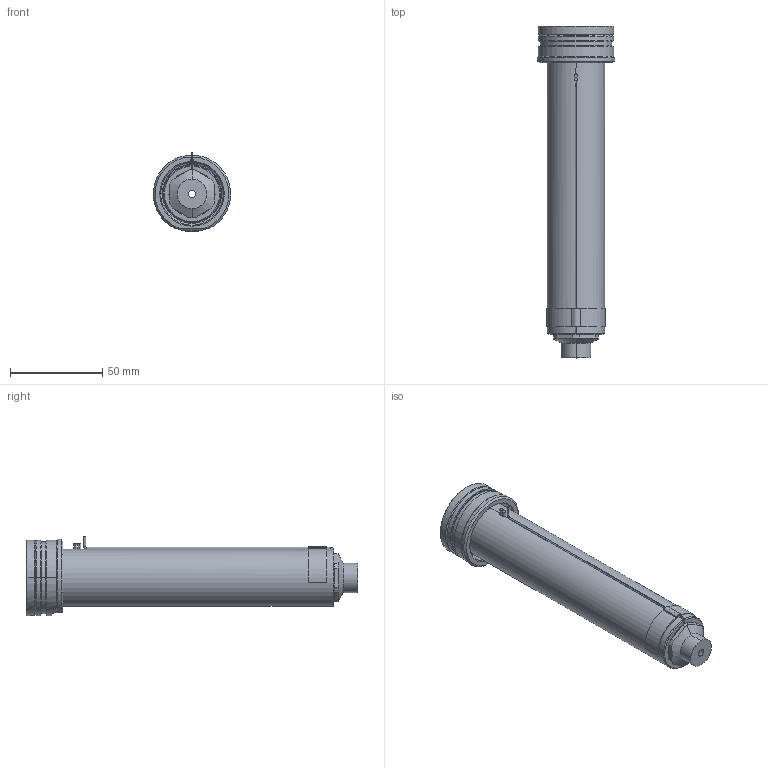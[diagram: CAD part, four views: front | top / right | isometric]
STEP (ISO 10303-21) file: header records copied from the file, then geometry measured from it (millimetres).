
FILE_DESCRIPTION((''),'2;1');
FILE_NAME('EO12_VG-FB_WR_160_SW','2024-02-19T13:41:21',('sundharh'),(''),'CREO PARAMETRIC BY PTC INC, 2023154','CREO PARAMETRIC BY PTC INC, 2023154','');
FILE_SCHEMA(('CONFIG_CONTROL_DESIGN'));
Length unit declared in the file: millimetre
Products named in the file (1): EO12_VG-FB_WR_160_SW
Bounding box: 41.85 x 180 x 43 mm (x, y, z)
Volume: 119121.7 mm3; surface area: 32258.3 mm2
Topology: 2 solids, 3 shells, 209 faces, 509 edges, 307 vertices
Faces by surface type: cylinder 73, plane 47, cone 41, torus 37, bspline 9, sphere 2
Entity records: 6984 total; most frequent: CARTESIAN_POINT 1955, DIRECTION 1134, ORIENTED_EDGE 1010, EDGE_CURVE 505, AXIS2_PLACEMENT_3D 480, VERTEX_POINT 307, CIRCLE 280, EDGE_LOOP 226
